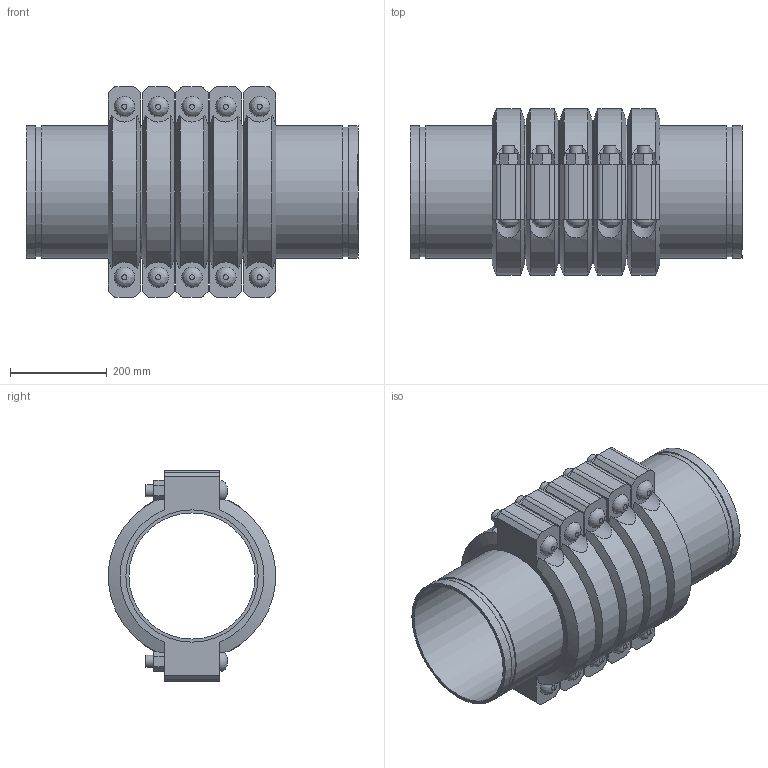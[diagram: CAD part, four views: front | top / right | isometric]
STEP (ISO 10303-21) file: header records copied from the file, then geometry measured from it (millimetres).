
FILE_DESCRIPTION(/* description */ ('VIC SS EXPANSION JOINT 5 COUPLINGS COMPRESSED STYLE 155P (OGS) (POTABLE WATER) ','CAx-IF Rec.Pracs.---Representation and Presentation of Product Manufacturing Information (PMI)---4.0---2014-10-13'),/* implementation_level */ '2;1');
FILE_NAME(/* name */ 'C:\Users\kkamble\AppData\Roaming\Autodesk\ApplicationPlugins\Victaulic.Temp\A410\Victaulic_SS_Expansion Joint_Compressed_5 Couplings_Style 155P (OGS)-Potable Water_5 Coup_Comp_10 (250).stp',/* time_stamp */ '2021-07-16T17:13:39+06:00',/* author */ ('kkamble'),/* organization */ ('Victaulic'),/* preprocessor_version */ 'ST-DEVELOPER v17.2',/* originating_system */ 'Autodesk Inventor 2019',/* authorisation */ '');
FILE_SCHEMA (('AP242_MANAGED_MODEL_BASED_3D_ENGINEERING_MIM_LF { 1 0 10303 442 1 1 4 }'));
Length unit declared in the file: inch
Products named in the file (4): 155P-10.0; Nipple-10.0; Nipple-10.0_1; 077-10.0
Assembly tree (11 placements, depth 2):
  155P-10.0
    Nipple-10.0  x2
    Nipple-10.0_1  x4
    077-10.0  x5
Bounding box: 685.8 x 344.9 x 435.1 mm (x, y, z)
Volume: 17948518.4 mm3; surface area: 2623471.3 mm2
Topology: 11 solids, 21 shells, 357 faces, 875 edges, 614 vertices
Faces by surface type: plane 206, cylinder 121, cone 20, bspline 10
Full cylindrical faces by diameter (mm): 25.4 x20, 27.432 x10, 260.35 x6, 268.275 x12, 273.05 x23
Entity records: 2961 total; most frequent: CARTESIAN_POINT 661, DIRECTION 459, ORIENTED_EDGE 398, EDGE_CURVE 199, AXIS2_PLACEMENT_3D 186, VERTEX_POINT 142, EDGE_LOOP 105, CIRCLE 92
